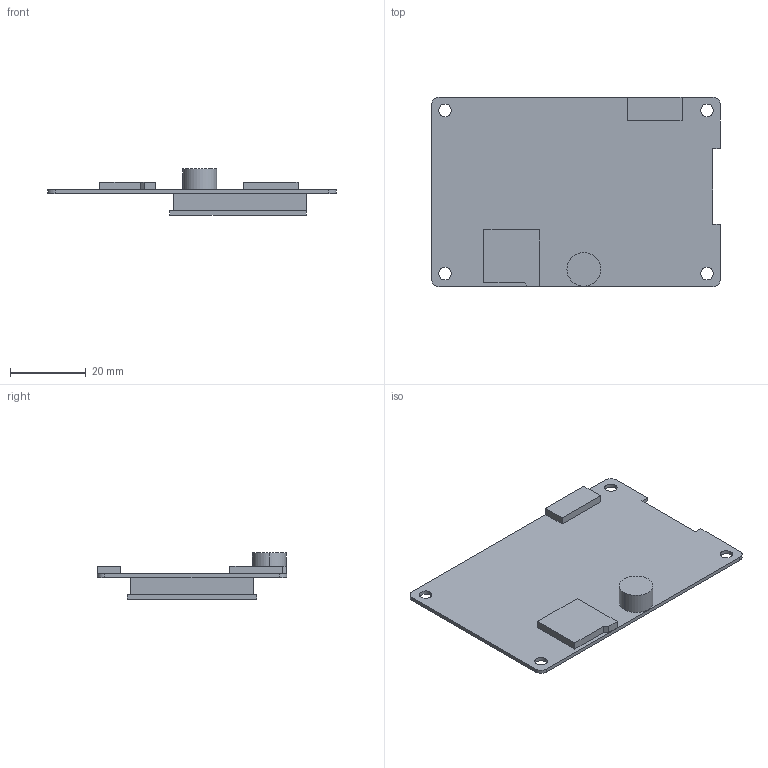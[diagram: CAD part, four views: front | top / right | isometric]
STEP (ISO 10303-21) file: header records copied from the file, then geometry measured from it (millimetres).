
FILE_DESCRIPTION((''),'2;1');
FILE_NAME('3D-DMG24240C015-03WTR-221020','2022-10-20T',('Administrator'),(''),'PRO/ENGINEER BY PARAMETRIC TECHNOLOGY CORPORATION, 2008380','PRO/ENGINEER BY PARAMETRIC TECHNOLOGY CORPORATION, 2008380','');
FILE_SCHEMA(('CONFIG_CONTROL_DESIGN'));
Length unit declared in the file: millimetre
Products named in the file (1): 3D-DMG24240C015-03WTR-221020
Bounding box: 76 x 50 x 12.2 mm (x, y, z)
Volume: 10931 mm3; surface area: 10734.8 mm2
Topology: 1 solids, 2 shells, 54 faces, 6544 edges, 10954 vertices
Faces by surface type: plane 40, cylinder 14
Entity records: 35678 total; most frequent: DIRECTION 8617, CARTESIAN_POINT 6689, TRIMMED_CURVE 6408, VECTOR 4581, LINE 4581, AXIS2_PLACEMENT_3D 2018, CIRCLE 1963, ORIENTED_EDGE 272
